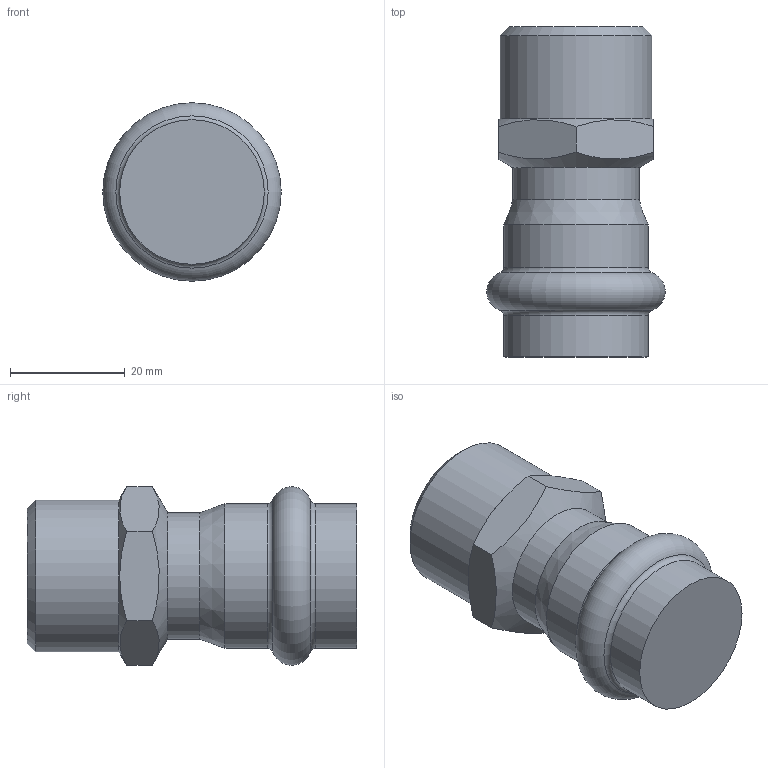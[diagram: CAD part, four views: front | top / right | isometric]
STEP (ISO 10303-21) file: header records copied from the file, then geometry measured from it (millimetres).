
FILE_DESCRIPTION(('STEP AP203'), '1');
FILE_NAME('VTi.901.I.002205', '', ('UNSPECIFIED'), ('UNSPECIFIED'), 'C3D Converter', 'C3D Toolkit', '');
FILE_SCHEMA(('CONFIG_CONTROL_DESIGN'));
Length unit declared in the file: millimetre
Bounding box: 31.09 x 57.5 x 31.18 mm (x, y, z)
Volume: 30646.8 mm3; surface area: 6127.8 mm2
Topology: 1 solids, 1 shells, 19 faces, 41 edges, 24 vertices
Faces by surface type: plane 8, cylinder 4, cone 4, torus 3
Full cylindrical faces by diameter (mm): 22 x1, 25.2 x2, 26.441 x1
Entity records: 1011 total; most frequent: CARTESIAN_POINT 620, DIRECTION 68, ORIENTED_EDGE 60, AXIS2_PLACEMENT_3D 31, EDGE_LOOP 30, EDGE_CURVE 30, VERTEX_POINT 24, FACE_OUTER_BOUND 20
